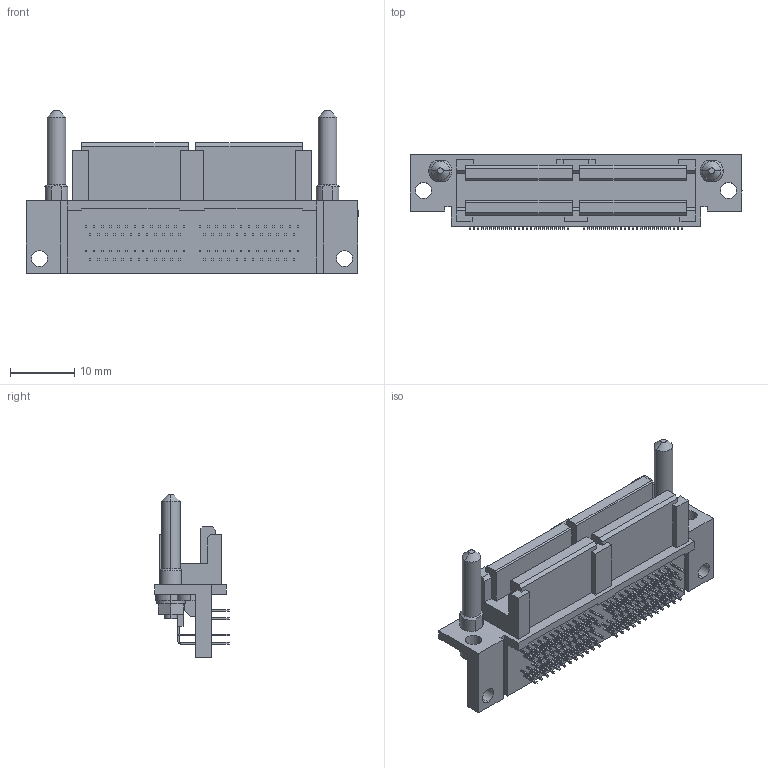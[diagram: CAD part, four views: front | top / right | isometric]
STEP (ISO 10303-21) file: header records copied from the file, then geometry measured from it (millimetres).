
FILE_DESCRIPTION (( 'STEP AP203' ), '1' );
FILE_NAME ('30002-100T-F RA RECEP. STEP R14 ALL.IGS.STEP', '2016-10-21T05:53:21', ( '' ), ( '' ), 'SwSTEP 2.0', 'SolidWorks 2014', '' );
FILE_SCHEMA (( 'CONFIG_CONTROL_DESIGN' ));
Length unit declared in the file: millimetre
Products named in the file (2): 30002-100T-F RA RECEP. STEP R14 ALL.IGS
Bounding box: 51.7 x 11.56 x 25.3 mm (x, y, z)
Volume: 4184.2 mm3; surface area: 5057.3 mm2
Topology: 1 solids, 1 shells, 1085 faces, 3040 edges, 2014 vertices
Faces by surface type: plane 939, cylinder 138, cone 8
Entity records: 34811 total; most frequent: CARTESIAN_POINT 6169, ORIENTED_EDGE 6080, DIRECTION 5520, EDGE_CURVE 3040, VECTOR 2726, LINE 2726, VERTEX_POINT 2014, AXIS2_PLACEMENT_3D 1397
